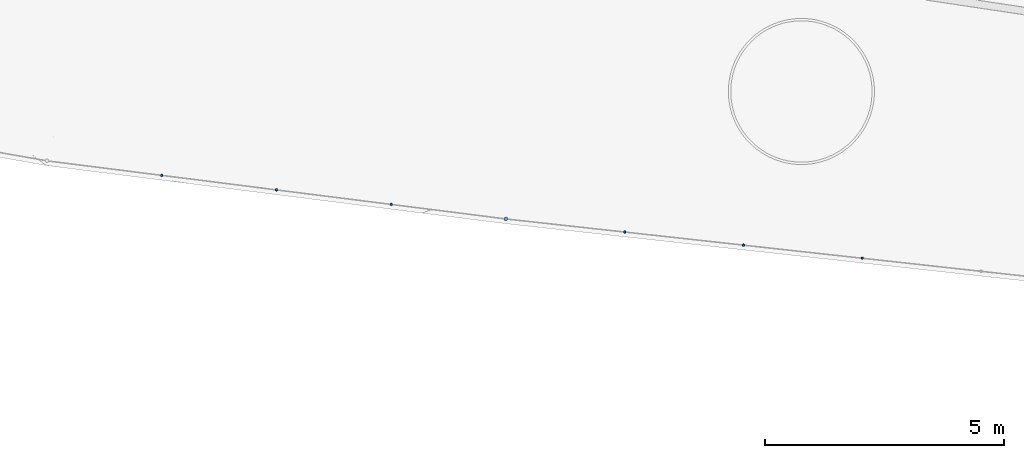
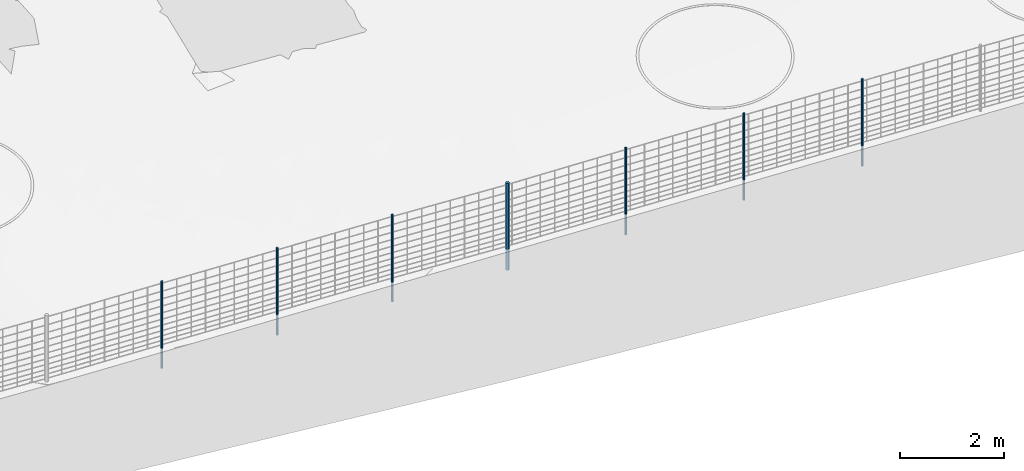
# Not in any storey, part 2 of 72: 7 members.
"""IFC4 model written with IfcOpenShell, lengths in metres."""

from ifc_helpers import new_model, si_unit, direction, frame, origin_with_axes, place, context, subcontext, project, spatial, circle, extrude, material, material_profile, profile_set, profile_usage, type_object, element, save


model = new_model("IFC4")

# Units and contexts
model_context = context("Model", 3, precision=1e-05, world=origin_with_axes(), true_north=direction((0.0, 1.0)))
body_context = subcontext(model_context, "Body", "Model", "MODEL_VIEW")
ifc_project = project(units=[si_unit("VOLUMEUNIT", "CUBIC_METRE"), si_unit("LENGTHUNIT", "METRE"), si_unit("AREAUNIT", "SQUARE_METRE")], contexts=[model_context])

# Site
site_placement = place(None, origin_with_axes())
site = spatial("IfcSite", under=ifc_project, at=site_placement, Name="Lares · Rua das Mercês · artigo 4771")

# Members
ifc_material = material(Name="Aço galvanizado / Stahl verzinkt", Category="steel")
ifc_material_profile_1 = material_profile(ifc_material, circle(Radius=0.038))
ifc_profile_set_1 = profile_set([ifc_material_profile_1], Name="D0.076")
ifc_profile_usage_1 = profile_usage(ifc_profile_set_1)
member_type_1 = type_object("IfcMemberType", Name="D0.076 / galvanized", PredefinedType="NOTDEFINED", material=ifc_profile_set_1)
member_1_placement = place(site_placement, frame((11.0594605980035, 1.65020931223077, 11.5558320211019), z_axis=(0.0, 0.0, 1.0), x_axis=(1.0, -1.03767253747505e-17, 0.0)))
element("IfcMember", 1, at=member_1_placement, inside=site, type_object=member_type_1, material=ifc_profile_usage_1, Name="Vedação · poste de canto/topo", PredefinedType="POST", context=body_context, shape_type="SweptSolid", body=[
    extrude(circle(Radius=0.038), origin_with_axes(), (0.0, 0.0, 1.0), 2.05),
])
ifc_material_profile_2 = material_profile(ifc_material, circle(Radius=0.024))
ifc_profile_set_2 = profile_set([ifc_material_profile_2], Name="D0.048")
ifc_profile_usage_2 = profile_usage(ifc_profile_set_2)
member_type_2 = type_object("IfcMemberType", Name="D0.048 / galvanized", PredefinedType="NOTDEFINED", material=ifc_profile_set_2)
member_2_placement = place(site_placement, frame((18.4990758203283, 0.829998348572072, 11.8911713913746), z_axis=(0.0, 0.0, 1.0), x_axis=(1.0, -1.03767253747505e-17, 0.0)))
element("IfcMember", 2, at=member_2_placement, inside=site, type_object=member_type_2, material=ifc_profile_usage_2, Name="Vedação · poste intermédio", PredefinedType="POST", context=body_context, shape_type="SweptSolid", body=[
    extrude(circle(Radius=0.024), origin_with_axes(), (0.0, 0.0, 1.0), 2.05),
])
ifc_profile_usage_3 = profile_usage(ifc_profile_set_2)
member_3_placement = place(site_placement, frame((16.0192040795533, 1.10340200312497, 11.7871976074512), z_axis=(0.0, 0.0, 1.0), x_axis=(1.0, -1.03767253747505e-17, 0.0)))
element("IfcMember", 3, at=member_3_placement, inside=site, type_object=member_type_2, material=ifc_profile_usage_3, Name="Vedação · poste intermédio", PredefinedType="POST", context=body_context, shape_type="SweptSolid", body=[
    extrude(circle(Radius=0.024), origin_with_axes(), (0.0, 0.0, 1.0), 2.05),
])
ifc_profile_usage_4 = profile_usage(ifc_profile_set_2)
member_4_placement = place(site_placement, frame((13.5393323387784, 1.37680565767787, 11.6771939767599), z_axis=(0.0, 0.0, 1.0), x_axis=(1.0, -1.03767253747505e-17, 0.0)))
element("IfcMember", 4, at=member_4_placement, inside=site, type_object=member_type_2, material=ifc_profile_usage_4, Name="Vedação · poste intermédio", PredefinedType="POST", context=body_context, shape_type="SweptSolid", body=[
    extrude(circle(Radius=0.024), origin_with_axes(), (0.0, 0.0, 1.0), 2.05),
])
ifc_profile_usage_5 = profile_usage(ifc_profile_set_2)
member_5_placement = place(site_placement, frame((8.6638163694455, 1.95353228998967, 11.4552574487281), z_axis=(0.0, 0.0, 1.0), x_axis=(1.0, -1.03767253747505e-17, 0.0)))
element("IfcMember", 5, at=member_5_placement, inside=site, type_object=member_type_2, material=ifc_profile_usage_5, Name="Vedação · poste intermédio", PredefinedType="POST", context=body_context, shape_type="SweptSolid", body=[
    extrude(circle(Radius=0.024), origin_with_axes(), (0.0, 0.0, 1.0), 2.05),
])
ifc_profile_usage_6 = profile_usage(ifc_profile_set_2)
member_6_placement = place(site_placement, frame((6.26817214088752, 2.25685526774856, 11.3234697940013), z_axis=(0.0, 0.0, 1.0), x_axis=(1.0, -1.03767253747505e-17, 0.0)))
element("IfcMember", 6, at=member_6_placement, inside=site, type_object=member_type_2, material=ifc_profile_usage_6, Name="Vedação · poste intermédio", PredefinedType="POST", context=body_context, shape_type="SweptSolid", body=[
    extrude(circle(Radius=0.024), origin_with_axes(), (0.0, 0.0, 1.0), 2.05),
])
ifc_profile_usage_7 = profile_usage(ifc_profile_set_2)
member_7_placement = place(site_placement, frame((3.87252791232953, 2.56017824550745, 11.1916821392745), z_axis=(0.0, 0.0, 1.0), x_axis=(1.0, -1.03767253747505e-17, 0.0)))
element("IfcMember", 7, at=member_7_placement, inside=site, type_object=member_type_2, material=ifc_profile_usage_7, Name="Vedação · poste intermédio", PredefinedType="POST", context=body_context, shape_type="SweptSolid", body=[
    extrude(circle(Radius=0.024), origin_with_axes(), (0.0, 0.0, 1.0), 2.05),
])

save(model, "model.ifc")
